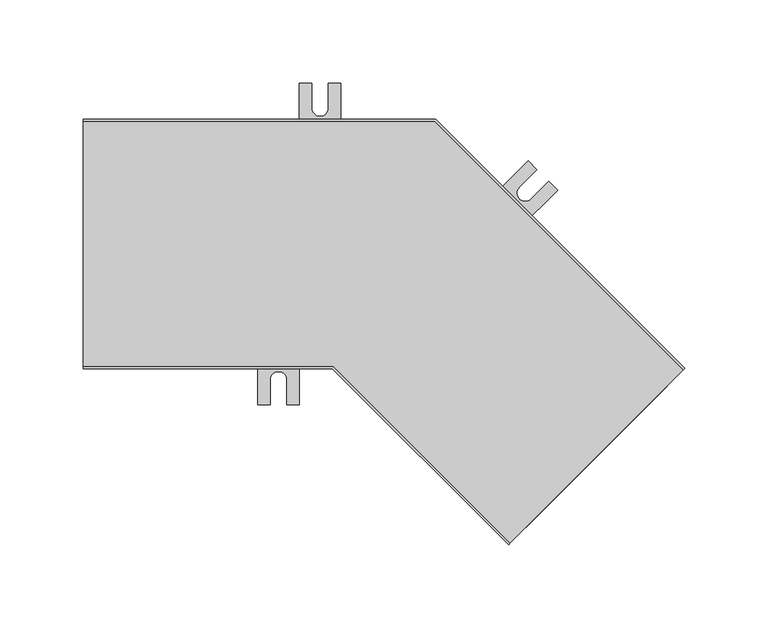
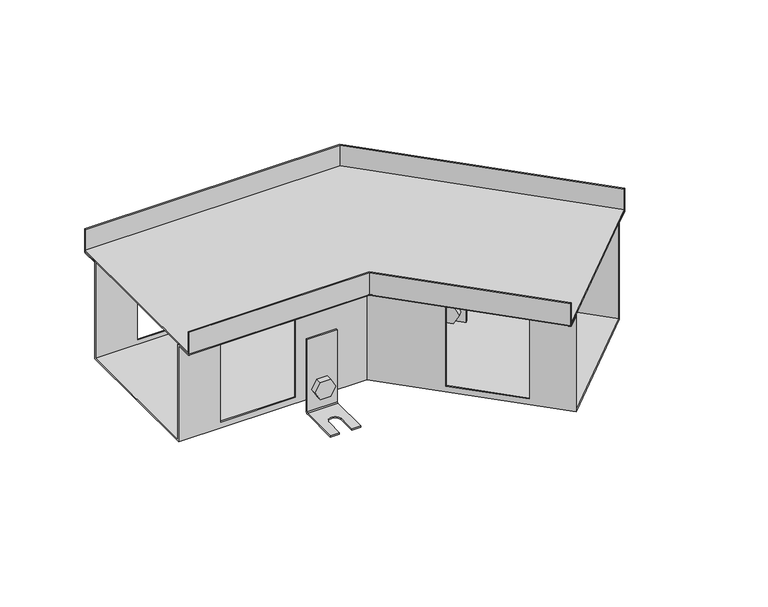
"""IFC4 building model written with IfcOpenShell, lengths in millimetres: proxy geometry, TECHNO_Угловой элемент_KVU : 150_105_135°."""

from ifc_helpers import new_model, si_unit, point, frame, frame_2d, origin, place, context, project, spatial, polyline, circle_curve, ellipse_curve, trimmed, segment, composite_curve, outline, extrude, source, transform, mapped, element, save
from ifc_brep_helpers import plane_surface, cylinder_surface, revolved_surface, advanced_brep


def mechanical_equipment_c4d98315(model_context):
    return source(origin(), model_context, "Body", "SolidModel", [
        extrude(outline(composite_curve([segment(trimmed(circle_curve(frame_2d((0.0, -7.5000001)), 7.5), [point((0.0, -15.0))], [point((0.0, 0.0))], False, "CARTESIAN"), True, "CONTINUOUS"), segment(trimmed(circle_curve(frame_2d((0.0, -7.5000001)), 7.5), [point((0.0, 0.0))], [point((0.0, -15.0))], False, "CARTESIAN"), True, "CONTINUOUS")], self_intersect=False)), frame((250.4666089, -30.7831745, -95.5), z_axis=(0.7071067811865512, 0.7071067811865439, 0.0), x_axis=(0.0, 0.0, 1.0)), (0.0, 0.0, 1.0), 1.5),
        extrude(outline(polyline([(0.0, 0.0), (8.660254, 1e-07), (12.990381, -7.5), (8.660254, -15.0), (0.0, -15.0), (-4.3301271, -7.4999999), (0.0, 0.0)])), frame((234.584811, -23.810922, -95.5), z_axis=(0.7071067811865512, 0.7071067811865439, 0.0), x_axis=(0.3535533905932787, -0.3535533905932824, -0.8660254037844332)), (0.0, 0.0, 1.0), 5.1),
        advanced_brep(
        [(253.1536147, -35.1672365, -50.5), (253.1536147, -35.1672365, -113.5), (252.5879292, -35.7329219, -114.3), (229.2534055, -59.0674457, -114.3), (229.2534055, -59.0674457, -115.5), (252.5879292, -35.7329219, -115.5), (254.0021428, -34.3187084, -113.5), (254.0021428, -34.3187084, -50.5), (235.4759451, -17.489567, -50.5), (236.3244733, -16.6410388, -50.5), (236.3244733, -16.6410388, -113.5), (234.9102597, -18.0552524, -115.5), (211.5757359, -41.3897762, -115.5), (211.5757359, -41.3897762, -114.3), (234.9102597, -18.0552524, -114.3), (235.4759451, -17.489567, -113.5), (216.8790368, -46.693077, -114.3), (227.4856385, -36.0864753, -114.3), (234.5567063, -43.1575431, -114.3), (223.9501046, -53.7641449, -114.3), (223.9501046, -53.7641449, -115.5), (216.8790368, -46.693077, -115.5), (234.5567063, -43.1575431, -115.5), (227.4856385, -36.0864753, -115.5)],
        [
            (0, 1),
            (1, 2, circle_curve(frame((252.5879292, -35.7329219, -113.5), z_axis=(-0.7071067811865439, 0.7071067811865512, 0.0), x_axis=(-0.7071067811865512, -0.7071067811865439, 0.0)), 0.8)),
            (2, 3),
            (3, 4),
            (4, 5),
            (5, 6, circle_curve(frame((252.5879292, -35.7329219, -113.5), z_axis=(0.7071067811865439, -0.7071067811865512, 0.0), x_axis=(-0.7071067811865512, -0.7071067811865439, 0.0)), 2.0)),
            (6, 7),
            (7, 0),
            (8, 9),
            (9, 10),
            (10, 11, circle_curve(frame((234.9102597, -18.0552524, -113.5), z_axis=(-0.7071067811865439, 0.7071067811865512, 0.0), x_axis=(-0.7071067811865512, -0.7071067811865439, 0.0)), 2.0)),
            (11, 12),
            (12, 13),
            (13, 14),
            (14, 15, circle_curve(frame((234.9102597, -18.0552524, -113.5), z_axis=(0.7071067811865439, -0.7071067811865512, 0.0), x_axis=(-0.7071067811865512, -0.7071067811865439, 0.0)), 0.8)),
            (15, 8),
            (0, 8),
            (15, 1),
            (14, 2),
            (13, 16),
            (16, 17),
            (17, 18, circle_curve(frame((231.0211724, -39.6220092, -114.3), z_axis=(0.0, 0.0, -1.0), x_axis=(0.7071067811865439, -0.7071067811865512, 0.0)), 5.0)),
            (18, 19),
            (19, 3),
            (19, 20),
            (20, 4),
            (12, 21),
            (21, 16),
            (20, 22),
            (22, 23, circle_curve(frame((231.0211724, -39.6220092, -115.5), z_axis=(0.0, 0.0, 1.0), x_axis=(0.7071067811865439, -0.7071067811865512, 0.0)), 5.0)),
            (23, 21),
            (11, 5),
            (10, 6),
            (9, 7),
            (23, 17),
            (18, 22),
        ],
        [
            plane_surface(frame((253.1536147, -35.1672365, -50.5), z_axis=(0.7071067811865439, -0.7071067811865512, 0.0), x_axis=(0.0, 0.0, -1.0))),
            plane_surface(frame((235.4759451, -17.489567, -50.5), z_axis=(-0.7071067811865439, 0.7071067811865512, 0.0), x_axis=(0.0, 0.0, 1.0))),
            plane_surface(frame((253.1536147, -35.1672365, -50.5), z_axis=(-0.7071067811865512, -0.7071067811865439, 0.0), x_axis=(-0.7071067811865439, 0.7071067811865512, 0.0))),
            revolved_surface(polyline([(234.34457427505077, -18.620937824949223, -113.5), (252.02224382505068, -36.29860737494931, -113.5)]), (234.9102597, -18.0552524, -113.5), (-0.7071067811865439, 0.7071067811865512, 0.0)),
            plane_surface(frame((252.5879292, -35.7329219, -114.3), z_axis=(0.0, 0.0, 1.0), x_axis=(-0.7071067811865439, 0.7071067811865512, 0.0))),
            plane_surface(frame((229.2534055, -59.0674457, -114.3), z_axis=(-0.7071067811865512, -0.7071067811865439, 0.0), x_axis=(-0.7071067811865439, 0.7071067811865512, 0.0))),
            plane_surface(frame((229.2534055, -59.0674457, -115.5), z_axis=(0.0, 0.0, -1.0), x_axis=(-0.7071067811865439, 0.7071067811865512, 0.0))),
            cylinder_surface(frame((234.9102597, -18.0552524, -113.5), z_axis=(0.7071067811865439, -0.7071067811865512, 0.0), x_axis=(-0.7071067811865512, -0.7071067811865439, 0.0)), 2.0),
            plane_surface(frame((254.0021428, -34.3187084, -113.5), z_axis=(0.7071067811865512, 0.7071067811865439, 0.0), x_axis=(-0.7071067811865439, 0.7071067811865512, 0.0))),
            plane_surface(frame((254.0021428, -34.3187084, -50.5), z_axis=(0.0, 0.0, 1.0), x_axis=(-0.7071067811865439, 0.7071067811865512, 0.0))),
            plane_surface(frame((227.4856385, -36.0864753, -114.3), z_axis=(0.7071067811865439, -0.7071067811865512, 0.0), x_axis=(0.0, 0.0, -1.0))),
            plane_surface(frame((223.9501046, -53.7641449, -114.3), z_axis=(-0.707106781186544, 0.7071067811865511, 0.0), x_axis=(0.0, 0.0, -1.0))),
            revolved_surface(polyline([(234.55670630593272, -43.15754310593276, -114.3), (234.55670630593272, -43.15754310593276, -115.5)]), (231.0211724, -39.6220092, -115.5), (0.0, 0.0, 1.0)),
        ],
        [
            (0, [[1, 2, 3, 4, 5, 6, 7, 8]]),
            (1, [[9, 10, 11, 12, 13, 14, 15, 16]]),
            (2, [[-1, 17, -16, 18]]),
            (3, [[-2, -18, -15, 19]]),
            (4, [[-3, -19, -14, 20, 21, 22, 23, 24]]),
            (5, [[-4, -24, 25, 26]]),
            (5, [[-13, 27, 28, -20]]),
            (6, [[-5, -26, 29, 30, 31, -27, -12, 32]]),
            (7, [[-6, -32, -11, 33]]),
            (8, [[-7, -33, -10, 34]]),
            (9, [[-8, -34, -9, -17]]),
            (10, [[35, -21, -28, -31]]),
            (11, [[36, -29, -25, -23]]),
            (12, [[-35, -30, -36, -22]]),
        ],
    ),
        extrude(outline(composite_curve([segment(trimmed(circle_curve(frame_2d((0.0, -7.5)), 7.5), [point((0.0, -15.0))], [point((0.0, 0.0))], False, "CARTESIAN"), True, "CONTINUOUS"), segment(trimmed(circle_curve(frame_2d((0.0, -7.5)), 7.5), [point((0.0, 0.0))], [point((0.0, -15.0))], False, "CARTESIAN"), True, "CONTINUOUS")], self_intersect=False)), frame((245.3754401, 20.6941992, -95.5), z_axis=(0.7071067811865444, 0.7071067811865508, 0.0), x_axis=(0.0, 0.0, -1.0)), (0.0, 0.0, 1.0), 1.5),
        extrude(outline(polyline([(0.0, 0.0), (4.330127, -7.5), (0.0, -15.0), (-8.660254, -15.0), (-12.990381, -7.5), (-8.6602541, 0.0), (0.0, 0.0)])), frame((258.7116536, 11.1763623, -95.5), z_axis=(0.7071067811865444, 0.7071067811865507, 0.0), x_axis=(0.35355339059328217, -0.35355339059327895, 0.8660254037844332)), (0.0, 0.0, 1.0), 5.1),
        advanced_brep(
        [(243.7490945, 26.1389214, -50.5), (243.7490945, 26.1389214, -113.5), (244.3147799, 26.7046068, -114.3), (267.6493037, 50.0391306, -114.3), (267.6493037, 50.0391306, -115.5), (244.3147799, 26.7046068, -115.5), (242.9005663, 25.2903933, -113.5), (242.9005663, 25.2903933, -50.5), (261.426764, 8.4612519, -50.5), (260.5782359, 7.6127238, -50.5), (260.5782359, 7.6127238, -113.5), (261.9924494, 9.0269373, -115.5), (285.3269732, 32.3614611, -115.5), (285.3269732, 32.3614611, -114.3), (261.9924494, 9.0269373, -114.3), (261.426764, 8.4612519, -113.5), (280.0236724, 37.664762, -114.3), (269.4170706, 27.0581602, -114.3), (262.3460028, 34.129228, -114.3), (272.9526045, 44.7358298, -114.3), (272.9526045, 44.7358298, -115.5), (280.0236724, 37.664762, -115.5), (262.3460028, 34.129228, -115.5), (269.4170706, 27.0581602, -115.5)],
        [
            (0, 1),
            (1, 2, circle_curve(frame((244.3147799, 26.7046068, -113.5), z_axis=(0.7071067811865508, -0.7071067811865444, 0.0), x_axis=(0.7071067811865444, 0.7071067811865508, 0.0)), 0.8)),
            (2, 3),
            (3, 4),
            (4, 5),
            (5, 6, circle_curve(frame((244.3147799, 26.7046068, -113.5), z_axis=(-0.7071067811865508, 0.7071067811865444, 0.0), x_axis=(0.7071067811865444, 0.7071067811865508, 0.0)), 2.0)),
            (6, 7),
            (7, 0),
            (8, 9),
            (9, 10),
            (10, 11, circle_curve(frame((261.9924494, 9.0269373, -113.5), z_axis=(0.7071067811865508, -0.7071067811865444, 0.0), x_axis=(0.7071067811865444, 0.7071067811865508, 0.0)), 2.0)),
            (11, 12),
            (12, 13),
            (13, 14),
            (14, 15, circle_curve(frame((261.9924494, 9.0269373, -113.5), z_axis=(-0.7071067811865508, 0.7071067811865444, 0.0), x_axis=(0.7071067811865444, 0.7071067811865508, 0.0)), 0.8)),
            (15, 8),
            (0, 8),
            (15, 1),
            (14, 2),
            (13, 16),
            (16, 17),
            (17, 18, circle_curve(frame((265.8815367, 30.5936941, -114.3), z_axis=(0.0, 0.0, -1.0), x_axis=(-0.7071067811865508, 0.7071067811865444, 0.0)), 5.0)),
            (18, 19),
            (19, 3),
            (19, 20),
            (20, 4),
            (12, 21),
            (21, 16),
            (20, 22),
            (22, 23, circle_curve(frame((265.8815367, 30.5936941, -115.5), z_axis=(0.0, 0.0, 1.0), x_axis=(-0.7071067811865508, 0.7071067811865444, 0.0)), 5.0)),
            (23, 21),
            (11, 5),
            (10, 6),
            (9, 7),
            (23, 17),
            (18, 22),
        ],
        [
            plane_surface(frame((243.7490945, 26.1389214, -50.5), z_axis=(-0.7071067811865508, 0.7071067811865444, 0.0), x_axis=(0.0, 0.0, -1.0))),
            plane_surface(frame((261.426764, 8.4612519, -50.5), z_axis=(0.7071067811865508, -0.7071067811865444, 0.0), x_axis=(0.0, 0.0, 1.0))),
            plane_surface(frame((243.7490945, 26.1389214, -50.5), z_axis=(0.7071067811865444, 0.7071067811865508, 0.0), x_axis=(0.7071067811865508, -0.7071067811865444, 0.0))),
            revolved_surface(polyline([(262.5581348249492, 9.59262272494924, -113.5), (244.8804653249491, 27.270292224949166, -113.5)]), (261.9924494, 9.0269373, -113.5), (0.7071067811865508, -0.7071067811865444, 0.0)),
            plane_surface(frame((244.3147799, 26.7046068, -114.3), z_axis=(0.0, 0.0, 1.0000000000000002), x_axis=(0.7071067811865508, -0.7071067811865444, 0.0))),
            plane_surface(frame((267.6493037, 50.0391306, -114.3), z_axis=(0.7071067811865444, 0.7071067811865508, 0.0), x_axis=(0.7071067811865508, -0.7071067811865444, 0.0))),
            plane_surface(frame((267.6493037, 50.0391306, -115.5), z_axis=(0.0, 0.0, -1.0000000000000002), x_axis=(0.7071067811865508, -0.7071067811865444, 0.0))),
            cylinder_surface(frame((261.9924494, 9.0269373, -113.5), z_axis=(-0.7071067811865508, 0.7071067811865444, 0.0), x_axis=(0.7071067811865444, 0.7071067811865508, 0.0)), 2.0),
            plane_surface(frame((242.9005663, 25.2903933, -113.5), z_axis=(-0.7071067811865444, -0.7071067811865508, 0.0), x_axis=(0.7071067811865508, -0.7071067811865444, 0.0))),
            plane_surface(frame((242.9005663, 25.2903933, -50.5), z_axis=(0.0, 0.0, 1.0000000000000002), x_axis=(0.7071067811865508, -0.7071067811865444, 0.0))),
            plane_surface(frame((269.4170706, 27.0581602, -114.3), z_axis=(-0.7071067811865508, 0.7071067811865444, 0.0), x_axis=(0.0, 0.0, -1.0))),
            plane_surface(frame((272.9526045, 44.7358298, -114.3), z_axis=(0.7071067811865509, -0.7071067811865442, 0.0), x_axis=(0.0, 0.0, -1.0))),
            revolved_surface(polyline([(262.34600279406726, 34.129228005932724, -114.3), (262.34600279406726, 34.129228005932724, -115.5)]), (265.8815367, 30.5936941, -115.5), (0.0, 0.0, 1.0)),
        ],
        [
            (0, [[1, 2, 3, 4, 5, 6, 7, 8]]),
            (1, [[9, 10, 11, 12, 13, 14, 15, 16]]),
            (2, [[-1, 17, -16, 18]]),
            (3, [[-2, -18, -15, 19]]),
            (4, [[-3, -19, -14, 20, 21, 22, 23, 24]]),
            (5, [[-4, -24, 25, 26]]),
            (5, [[-13, 27, 28, -20]]),
            (6, [[-5, -26, 29, 30, 31, -27, -12, 32]]),
            (7, [[-6, -32, -11, 33]]),
            (8, [[-7, -33, -10, 34]]),
            (9, [[-8, -34, -9, -17]]),
            (10, [[35, -21, -28, -31]]),
            (11, [[36, -29, -25, -23]]),
            (12, [[-35, -30, -36, -22]]),
        ],
    ),
        extrude(outline(composite_curve([segment(trimmed(circle_curve(frame_2d((-95.5, 142.5)), 7.5), [point((-95.5, 135.0))], [point((-95.5, 150.0))], False, "CARTESIAN"), True, "CONTINUOUS"), segment(trimmed(circle_curve(frame_2d((-95.5, 142.5)), 7.5), [point((-95.5, 150.0))], [point((-95.5, 135.0))], False, "CARTESIAN"), True, "CONTINUOUS")], self_intersect=False)), frame((0.0, 60.2, 0.0), z_axis=(0.0, 1.0, 0.0), x_axis=(0.0, 0.0, 1.0)), (0.0, 0.0, 1.0), 1.5),
        extrude(outline(polyline([(-95.5, 133.839746), (-103.0, 138.169873), (-103.0, 146.830127), (-95.5, 151.160254), (-88.0, 146.830127), (-88.0, 138.169873), (-95.5, 133.839746)])), frame((0.0, 62.9, 0.0), z_axis=(0.0, 1.0, 0.0), x_axis=(0.0, 0.0, 1.0)), (0.0, 0.0, 1.0), 5.1),
        advanced_brep(
        [(155.0, 62.9, -50.5), (155.0, 61.7, -50.5), (155.0, 61.7, -113.5), (155.0, 63.7, -115.5), (155.0, 96.7, -115.5), (155.0, 96.7, -114.3), (155.0, 63.7, -114.3), (155.0, 62.9, -113.5), (130.0, 62.9, -50.5), (130.0, 62.9, -113.5), (130.0, 63.7, -114.3), (130.0, 96.7, -114.3), (130.0, 96.7, -115.5), (130.0, 63.7, -115.5), (130.0, 61.7, -113.5), (130.0, 61.7, -50.5), (147.5, 96.7, -114.3), (147.5, 81.7, -114.3), (137.5, 81.7, -114.3), (137.5, 96.7, -114.3), (137.5, 96.7, -115.5), (147.5, 96.7, -115.5), (137.5, 81.7, -115.5), (147.5, 81.7, -115.5)],
        [
            (0, 1),
            (1, 2),
            (2, 3, circle_curve(frame((155.0, 63.7, -113.5), z_axis=(1.0, 0.0, 0.0), x_axis=(0.0, 1.0, 0.0)), 2.0)),
            (3, 4),
            (4, 5),
            (5, 6),
            (6, 7, circle_curve(frame((155.0, 63.7, -113.5), z_axis=(-1.0, 0.0, 0.0), x_axis=(0.0, 1.0, 0.0)), 0.8)),
            (7, 0),
            (8, 9),
            (9, 10, circle_curve(frame((130.0, 63.7, -113.5), z_axis=(1.0, 0.0, 0.0), x_axis=(0.0, 1.0, 0.0)), 0.8)),
            (10, 11),
            (11, 12),
            (12, 13),
            (13, 14, circle_curve(frame((130.0, 63.7, -113.5), z_axis=(-1.0, 0.0, 0.0), x_axis=(0.0, 1.0, 0.0)), 2.0)),
            (14, 15),
            (15, 8),
            (7, 9),
            (8, 0),
            (6, 10),
            (5, 16),
            (16, 17),
            (17, 18, circle_curve(frame((142.5, 81.7, -114.3), z_axis=(0.0, 0.0, -1.0), x_axis=(1.0, 0.0, 0.0)), 5.0)),
            (18, 19),
            (19, 11),
            (19, 20),
            (20, 12),
            (4, 21),
            (21, 16),
            (3, 13),
            (20, 22),
            (22, 23, circle_curve(frame((142.5, 81.7, -115.5), z_axis=(0.0, 0.0, 1.0), x_axis=(1.0, 0.0, 0.0)), 5.0)),
            (23, 21),
            (2, 14),
            (1, 15),
            (18, 22),
            (23, 17),
        ],
        [
            plane_surface(frame((155.0, 62.9, -50.5), z_axis=(1.0, 0.0, 0.0), x_axis=(0.0, 0.0, -1.0))),
            plane_surface(frame((130.0, 62.9, -50.5), z_axis=(-1.0, 0.0, 0.0), x_axis=(0.0, 0.0, 1.0))),
            plane_surface(frame((155.0, 62.9, -50.5), z_axis=(0.0, 1.0, 0.0), x_axis=(-1.0, 0.0, 0.0))),
            revolved_surface(polyline([(130.0, 64.5, -113.5), (155.0, 64.5, -113.5)]), (130.0, 63.7, -113.5), (-1.0, 0.0, 0.0)),
            plane_surface(frame((155.0, 63.7, -114.3), z_axis=(0.0, 0.0, 1.0), x_axis=(-1.0, 0.0, 0.0))),
            plane_surface(frame((155.0, 96.7, -114.3), z_axis=(0.0, 1.0, 0.0), x_axis=(-1.0, 0.0, 0.0))),
            plane_surface(frame((155.0, 96.7, -115.5), z_axis=(0.0, 0.0, -1.0), x_axis=(-1.0, 0.0, 0.0))),
            cylinder_surface(frame((130.0, 63.7, -113.5), z_axis=(1.0, 0.0, 0.0), x_axis=(0.0, 1.0, 0.0)), 2.0),
            plane_surface(frame((155.0, 61.7, -113.5), z_axis=(0.0, -1.0, 0.0), x_axis=(-1.0, 0.0, 0.0))),
            plane_surface(frame((155.0, 61.7, -50.5), z_axis=(0.0, 0.0, 1.0), x_axis=(-1.0, 0.0, 0.0))),
            plane_surface(frame((137.5, 81.7, -114.3), z_axis=(1.0, 0.0, 0.0), x_axis=(0.0, 0.0, -1.0))),
            plane_surface(frame((147.5, 96.7, -114.3), z_axis=(-1.0, 0.0, 0.0), x_axis=(0.0, 0.0, -1.0))),
            revolved_surface(polyline([(147.5, 81.7, -114.3), (147.5, 81.7, -115.5)]), (142.5, 81.7, -115.5), (0.0, 0.0, 1.0)),
        ],
        [
            (0, [[1, 2, 3, 4, 5, 6, 7, 8]]),
            (1, [[9, 10, 11, 12, 13, 14, 15, 16]]),
            (2, [[17, -9, 18, -8]]),
            (3, [[19, -10, -17, -7]]),
            (4, [[20, 21, 22, 23, 24, -11, -19, -6]]),
            (5, [[-24, 25, 26, -12]]),
            (5, [[27, 28, -20, -5]]),
            (6, [[29, -13, -26, 30, 31, 32, -27, -4]]),
            (7, [[33, -14, -29, -3]]),
            (8, [[34, -15, -33, -2]]),
            (9, [[-18, -16, -34, -1]]),
            (10, [[-30, -25, -23, 35]]),
            (11, [[-21, -28, -32, 36]]),
            (12, [[-22, -36, -31, -35]]),
        ],
    ),
        extrude(outline(composite_curve([segment(trimmed(circle_curve(frame_2d((-95.5, 117.5)), 7.5), [point((-95.5, 110.0))], [point((-95.5, 125.0))], False, "CARTESIAN"), True, "CONTINUOUS"), segment(trimmed(circle_curve(frame_2d((-95.5, 117.5)), 7.5), [point((-95.5, 125.0))], [point((-95.5, 110.0))], False, "CARTESIAN"), True, "CONTINUOUS")], self_intersect=False)), frame((0.0, -61.7, 0.0), z_axis=(0.0, 1.0, 0.0), x_axis=(0.0, 0.0, 1.0)), (0.0, 0.0, 1.0), 1.5),
        extrude(outline(polyline([(-95.5, 108.839746), (-103.0, 113.169873), (-103.0, 121.830127), (-95.5, 126.160254), (-88.0, 121.830127), (-88.0, 113.169873), (-95.5, 108.839746)])), frame((0.0, -68.0, 0.0), z_axis=(0.0, 1.0, 0.0), x_axis=(0.0, 0.0, 1.0)), (0.0, 0.0, 1.0), 5.1),
        advanced_brep(
        [(130.0, -62.9, -50.5), (130.0, -62.9, -113.5), (130.0, -63.7, -114.3), (130.0, -96.7, -114.3), (130.0, -96.7, -115.5), (130.0, -63.7, -115.5), (130.0, -61.7, -113.5), (130.0, -61.7, -50.5), (105.0, -62.9, -50.5), (105.0, -61.7, -50.5), (105.0, -61.7, -113.5), (105.0, -63.7, -115.5), (105.0, -96.7, -115.5), (105.0, -96.7, -114.3), (105.0, -63.7, -114.3), (105.0, -62.9, -113.5), (112.5, -96.7, -114.3), (112.5, -81.7, -114.3), (122.5, -81.7, -114.3), (122.5, -96.7, -114.3), (122.5, -96.7, -115.5), (112.5, -96.7, -115.5), (122.5, -81.7, -115.5), (112.5, -81.7, -115.5)],
        [
            (0, 1),
            (1, 2, circle_curve(frame((130.0, -63.7, -113.5), z_axis=(-1.0, 0.0, 0.0), x_axis=(0.0, -1.0, 0.0)), 0.8)),
            (2, 3),
            (3, 4),
            (4, 5),
            (5, 6, circle_curve(frame((130.0, -63.7, -113.5), z_axis=(1.0, 0.0, 0.0), x_axis=(0.0, -1.0, 0.0)), 2.0)),
            (6, 7),
            (7, 0),
            (8, 9),
            (9, 10),
            (10, 11, circle_curve(frame((105.0, -63.7, -113.5), z_axis=(-1.0, 0.0, 0.0), x_axis=(0.0, -1.0, 0.0)), 2.0)),
            (11, 12),
            (12, 13),
            (13, 14),
            (14, 15, circle_curve(frame((105.0, -63.7, -113.5), z_axis=(1.0, 0.0, 0.0), x_axis=(0.0, -1.0, 0.0)), 0.8)),
            (15, 8),
            (0, 8),
            (15, 1),
            (14, 2),
            (13, 16),
            (16, 17),
            (17, 18, circle_curve(frame((117.5, -81.7, -114.3), z_axis=(0.0, 0.0, -1.0), x_axis=(1.0, 0.0, 0.0)), 5.0)),
            (18, 19),
            (19, 3),
            (19, 20),
            (20, 4),
            (12, 21),
            (21, 16),
            (20, 22),
            (22, 23, circle_curve(frame((117.5, -81.7, -115.5), z_axis=(0.0, 0.0, 1.0), x_axis=(1.0, 0.0, 0.0)), 5.0)),
            (23, 21),
            (11, 5),
            (10, 6),
            (9, 7),
            (23, 17),
            (18, 22),
        ],
        [
            plane_surface(frame((130.0, -62.9, -50.5), z_axis=(1.0, 0.0, 0.0), x_axis=(0.0, 0.0, -1.0))),
            plane_surface(frame((105.0, -62.9, -50.5), z_axis=(-1.0, 0.0, 0.0), x_axis=(0.0, 0.0, 1.0))),
            plane_surface(frame((130.0, -62.9, -50.5), z_axis=(0.0, -1.0, 0.0), x_axis=(-1.0, 0.0, 0.0))),
            revolved_surface(polyline([(105.0, -64.5, -113.5), (130.0, -64.5, -113.5)]), (105.0, -63.7, -113.5), (-1.0, 0.0, 0.0)),
            plane_surface(frame((130.0, -63.7, -114.3), z_axis=(0.0, 0.0, 1.0), x_axis=(-1.0, 0.0, 0.0))),
            plane_surface(frame((130.0, -96.7, -114.3), z_axis=(0.0, -1.0, 0.0), x_axis=(-1.0, 0.0, 0.0))),
            plane_surface(frame((130.0, -96.7, -115.5), z_axis=(0.0, 0.0, -1.0), x_axis=(-1.0, 0.0, 0.0))),
            cylinder_surface(frame((105.0, -63.7, -113.5), z_axis=(1.0, 0.0, 0.0), x_axis=(0.0, -1.0, 0.0)), 2.0),
            plane_surface(frame((130.0, -61.7, -113.5), z_axis=(0.0, 1.0, 0.0), x_axis=(-1.0, 0.0, 0.0))),
            plane_surface(frame((130.0, -61.7, -50.5), z_axis=(0.0, 0.0, 1.0), x_axis=(-1.0, 0.0, 0.0))),
            plane_surface(frame((112.5, -81.7, -114.3), z_axis=(1.0, 0.0, 0.0), x_axis=(0.0, 0.0, -1.0))),
            plane_surface(frame((122.5, -96.7, -114.3), z_axis=(-1.0, 0.0, 0.0), x_axis=(0.0, 0.0, -1.0))),
            revolved_surface(polyline([(122.5, -81.7, -114.3), (122.5, -81.7, -115.5)]), (117.5, -81.7, -115.5), (0.0, 0.0, 1.0)),
        ],
        [
            (0, [[1, 2, 3, 4, 5, 6, 7, 8]]),
            (1, [[9, 10, 11, 12, 13, 14, 15, 16]]),
            (2, [[-1, 17, -16, 18]]),
            (3, [[-2, -18, -15, 19]]),
            (4, [[-3, -19, -14, 20, 21, 22, 23, 24]]),
            (5, [[-4, -24, 25, 26]]),
            (5, [[-13, 27, 28, -20]]),
            (6, [[-5, -26, 29, 30, 31, -27, -12, 32]]),
            (7, [[-6, -32, -11, 33]]),
            (8, [[-7, -33, -10, 34]]),
            (9, [[-8, -34, -9, -17]]),
            (10, [[35, -21, -28, -31]]),
            (11, [[36, -29, -25, -23]]),
            (12, [[-35, -30, -36, -22]]),
        ],
    ),
        extrude(outline(polyline([(361.0581095, -75.7551657), (256.6891486, -180.1241267), (150.3650219, -73.8), (0.0, -73.8), (0.0, 73.8), (211.5029437, 73.8), (361.0581095, -75.7551657)])), frame((0.0, 0.0, -19.3), z_axis=(0.0, 0.0, 1.0), x_axis=(1.0, 0.0, 0.0)), (0.0, 0.0, 1.0), 1.2),
        advanced_brep(
        [(255.8406204, -180.9726548, -19.3), (256.6891486, -180.1241267, -20.5), (266.3058008, -170.5074744, -20.5), (266.3058008, -170.5074744, -105.0), (351.4414572, -85.371818, -105.0), (351.4414572, -85.371818, -20.5), (361.0581095, -75.7551657, -20.5), (361.9066376, -74.9066376, -19.3), (361.9066376, -74.9066376, 0.0), (361.0581095, -75.7551657, 0.0), (361.0581095, -75.7551657, -19.3), (351.4414572, -85.371818, -19.3), (350.5929291, -86.2203461, -20.5), (350.5929291, -86.2203461, -103.8), (267.1543289, -169.6589463, -103.8), (267.1543289, -169.6589463, -20.5), (266.3058008, -170.5074744, -19.3), (256.6891486, -180.1241267, -19.3), (256.6891486, -180.1241267, 0.0), (255.8406204, -180.9726548, 0.0), (0.0, -75.0, -19.3), (0.0, -75.0, 0.0), (0.0, -73.8, 0.0), (0.0, -73.8, -19.3), (0.0, -60.2, -19.3), (0.0, -59.0, -20.5), (0.0, -59.0, -103.8), (0.0, 59.0, -103.8), (0.0, 59.0, -20.5), (0.0, 60.2, -19.3), (0.0, 73.8, -19.3), (0.0, 73.8, 0.0), (0.0, 75.0, 0.0), (0.0, 75.0, -19.3), (0.0, 73.8, -20.5), (0.0, 60.2, -20.5), (0.0, 60.2, -105.0), (0.0, -60.2, -105.0), (0.0, -60.2, -20.5), (0.0, -73.8, -20.5), (150.3650219, -73.8, -20.5), (149.8679656, -75.0, -19.3), (150.3650219, -73.8, 0.0), (150.3650219, -73.8, -19.3), (155.9983264, -60.2, -105.0), (155.9983264, -60.2, -20.5), (35.0, -60.2, -28.0), (97.0, -60.2, -28.0), (97.0, -60.2, -100.0), (35.0, -60.2, -100.0), (156.4953826, -59.0, -20.5), (156.4953826, -59.0, -103.8), (97.0, -59.0, -28.0), (35.0, -59.0, -28.0), (35.0, -59.0, -100.0), (97.0, -59.0, -100.0), (155.9983264, -60.2, -19.3), (197.716443, -101.9181167, -28.0), (241.5570635, -145.7587371, -28.0), (241.5570635, -145.7587371, -100.0), (197.716443, -101.9181167, -100.0), (205.8696393, 60.2, -105.0), (205.372583, 59.0, -103.8), (242.4055916, -144.9102089, -28.0), (198.5649712, -101.0695885, -28.0), (198.5649712, -101.0695885, -100.0), (242.4055916, -144.9102089, -100.0), (149.8679656, -75.0, 0.0), (205.8696393, 60.2, -20.5), (326.6927199, -60.6230806, -28.0), (282.8520995, -16.7824602, -28.0), (282.8520995, -16.7824602, -100.0), (326.6927199, -60.6230806, -100.0), (211.5029437, 73.8, -20.5), (212.0, 75.0, -19.3), (212.0, 75.0, 0.0), (211.5029437, 73.8, 0.0), (211.5029437, 73.8, -19.3), (205.8696393, 60.2, -19.3), (205.372583, 59.0, -20.5), (282.0035713, -17.6309883, -28.0), (325.8441918, -61.4716088, -28.0), (325.8441918, -61.4716088, -100.0), (282.0035713, -17.6309883, -100.0), (97.0, 60.2, -28.0), (35.0, 60.2, -28.0), (35.0, 60.2, -100.0), (97.0, 60.2, -100.0), (35.0, 59.0, -28.0), (97.0, 59.0, -28.0), (97.0, 59.0, -100.0), (35.0, 59.0, -100.0)],
        [
            (0, 1, circle_curve(frame((256.6891486, -180.1241267, -19.3), z_axis=(0.707106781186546, -0.707106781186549, 0.0), x_axis=(-0.707106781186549, -0.707106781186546, 0.0)), 1.2)),
            (1, 2),
            (2, 3),
            (3, 4),
            (4, 5),
            (5, 6),
            (6, 7, circle_curve(frame((361.0581095, -75.7551657, -19.3), z_axis=(0.707106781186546, -0.707106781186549, 0.0), x_axis=(-0.707106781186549, -0.707106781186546, 0.0)), 1.2)),
            (7, 8),
            (8, 9),
            (9, 10),
            (10, 11),
            (11, 12, circle_curve(frame((351.4414572, -85.371818, -20.5), z_axis=(0.707106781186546, -0.707106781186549, 0.0), x_axis=(-0.707106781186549, -0.707106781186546, 0.0)), 1.2)),
            (12, 13),
            (13, 14),
            (14, 15),
            (15, 16, circle_curve(frame((266.3058008, -170.5074744, -20.5), z_axis=(0.707106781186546, -0.707106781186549, 0.0), x_axis=(-0.707106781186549, -0.707106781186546, 0.0)), 1.2)),
            (16, 17),
            (17, 18),
            (18, 19),
            (19, 0),
            (20, 21),
            (21, 22),
            (22, 23),
            (23, 24),
            (24, 25, circle_curve(frame((0.0, -60.2, -20.5), z_axis=(-1.0, 0.0, 0.0), x_axis=(0.0, -1.0, 0.0)), 1.2)),
            (25, 26),
            (26, 27),
            (27, 28),
            (28, 29, circle_curve(frame((0.0, 60.2, -20.5), z_axis=(-1.0, 0.0, 0.0), x_axis=(0.0, -1.0, 0.0)), 1.2)),
            (29, 30),
            (30, 31),
            (31, 32),
            (32, 33),
            (33, 34, circle_curve(frame((0.0, 73.8, -19.3), z_axis=(-1.0, 0.0, 0.0), x_axis=(0.0, -1.0, 0.0)), 1.2)),
            (34, 35),
            (35, 36),
            (36, 37),
            (37, 38),
            (38, 39),
            (39, 20, circle_curve(frame((0.0, -73.8, -19.3), z_axis=(-1.0, 0.0, 0.0), x_axis=(0.0, -1.0, 0.0)), 1.2)),
            (39, 40),
            (40, 41, ellipse_curve(frame((150.3650219, -73.8, -19.3), z_axis=(-0.9238795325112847, 0.3826834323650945, 0.0), x_axis=(0.38268343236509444, 0.9238795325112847, 0.0)), 1.2988706, 1.2)),
            (41, 20),
            (22, 42),
            (42, 43),
            (43, 23),
            (37, 44),
            (44, 45),
            (45, 38),
            (46, 47),
            (47, 48),
            (48, 49),
            (49, 46),
            (25, 50),
            (50, 51),
            (51, 26),
            (52, 53),
            (53, 54),
            (54, 55),
            (55, 52),
            (24, 56),
            (56, 50, ellipse_curve(frame((155.9983264, -60.2, -20.5), z_axis=(-0.9238795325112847, 0.3826834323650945, 0.0), x_axis=(0.38268343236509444, 0.9238795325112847, 0.0)), 1.2988706, 1.2)),
            (0, 41),
            (40, 1),
            (45, 2),
            (44, 3),
            (57, 58),
            (58, 59),
            (59, 60),
            (60, 57),
            (36, 61),
            (61, 4),
            (13, 62),
            (62, 27),
            (51, 14),
            (50, 15),
            (63, 64),
            (64, 65),
            (65, 66),
            (66, 63),
            (56, 16),
            (43, 17),
            (42, 18),
            (21, 67),
            (67, 19),
            (61, 68),
            (68, 5),
            (69, 70),
            (70, 71),
            (71, 72),
            (72, 69),
            (68, 35),
            (34, 73),
            (73, 6),
            (73, 74, ellipse_curve(frame((211.5029437, 73.8, -19.3), z_axis=(0.9238795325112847, -0.3826834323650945, 0.0), x_axis=(-0.38268343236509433, -0.9238795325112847, 0.0)), 1.2988706, 1.2)),
            (74, 7),
            (74, 75),
            (75, 8),
            (75, 32),
            (31, 76),
            (76, 9),
            (76, 77),
            (77, 10),
            (77, 30),
            (29, 78),
            (78, 11),
            (78, 79, ellipse_curve(frame((205.8696393, 60.2, -20.5), z_axis=(0.9238795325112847, -0.3826834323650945, 0.0), x_axis=(-0.38268343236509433, -0.9238795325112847, 0.0)), 1.2988706, 1.2)),
            (79, 12),
            (79, 62),
            (80, 81),
            (81, 82),
            (82, 83),
            (83, 80),
            (84, 85),
            (85, 86),
            (86, 87),
            (87, 84),
            (33, 74),
            (28, 79),
            (88, 89),
            (89, 90),
            (90, 91),
            (91, 88),
            (41, 67),
            (46, 53),
            (52, 47),
            (88, 85),
            (84, 89),
            (49, 54),
            (91, 86),
            (48, 55),
            (90, 87),
            (57, 64),
            (63, 58),
            (80, 70),
            (69, 81),
            (66, 59),
            (72, 82),
            (65, 60),
            (71, 83),
        ],
        [
            plane_surface(frame((308.873629, -127.9396462, 0.0), z_axis=(0.707106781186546, -0.707106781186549, 0.0), x_axis=(0.0, 0.0, 1.0))),
            plane_surface(frame((0.0, 0.0, 0.0), z_axis=(-1.0, 0.0, 0.0), x_axis=(0.0, 0.0, 1.0))),
            cylinder_surface(frame((180.9339828, -73.8, -19.3), z_axis=(1.0, 0.0, 0.0), x_axis=(0.0, -1.0, 0.0)), 1.2),
            plane_surface(frame((150.3650219, -73.8, -19.3), z_axis=(0.0, 1.0, 0.0), x_axis=(-1.0, 0.0, 0.0))),
            plane_surface(frame((155.9983264, -60.2, -20.5), z_axis=(0.0, -1.0, 0.0), x_axis=(-1.0, 0.0, 0.0))),
            plane_surface(frame((156.4953826, -59.0, -103.8), z_axis=(0.0, 1.0, 0.0), x_axis=(-1.0, 0.0, 0.0))),
            cylinder_surface(frame((180.9339828, -60.2, -20.5), z_axis=(1.0, 0.0, 0.0), x_axis=(0.0, -1.0, 0.0)), 1.2),
            cylinder_surface(frame((256.6891486, -180.1241267, -19.3), z_axis=(0.707106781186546, -0.707106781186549, 0.0), x_axis=(-0.707106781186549, -0.707106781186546, 0.0)), 1.2),
            plane_surface(frame((256.6891486, -180.1241267, -20.5), z_axis=(0.0, 0.0, -1.0), x_axis=(-0.7071067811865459, 0.7071067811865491, 0.0))),
            plane_surface(frame((266.3058008, -170.5074744, -20.5), z_axis=(-0.7071067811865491, -0.707106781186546, 0.0), x_axis=(-0.707106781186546, 0.7071067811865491, 0.0))),
            plane_surface(frame((266.3058008, -170.5074744, -105.0), z_axis=(0.0, 0.0, -1.0), x_axis=(-0.7071067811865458, 0.7071067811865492, 0.0))),
            plane_surface(frame((350.5929291, -86.2203461, -103.8), z_axis=(0.0, 0.0, 1.0), x_axis=(-0.7071067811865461, 0.707106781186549, 0.0))),
            plane_surface(frame((267.1543289, -169.6589463, -103.8), z_axis=(0.7071067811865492, 0.7071067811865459, 0.0), x_axis=(-0.7071067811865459, 0.7071067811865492, 0.0))),
            cylinder_surface(frame((266.3058008, -170.5074744, -20.5), z_axis=(0.707106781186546, -0.707106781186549, 0.0), x_axis=(-0.707106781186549, -0.707106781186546, 0.0)), 1.2),
            plane_surface(frame((266.3058008, -170.5074744, -19.3), z_axis=(0.0, 0.0, 1.0), x_axis=(-0.707106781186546, 0.7071067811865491, 0.0))),
            plane_surface(frame((256.6891486, -180.1241267, -19.3), z_axis=(0.7071067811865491, 0.7071067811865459, 0.0), x_axis=(-0.7071067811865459, 0.7071067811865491, 0.0))),
            plane_surface(frame((256.6891486, -180.1241267, 0.0), z_axis=(0.0, 0.0, 1.0), x_axis=(-0.7071067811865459, 0.7071067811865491, 0.0))),
            plane_surface(frame((351.4414572, -85.371818, -105.0), z_axis=(0.7071067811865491, 0.707106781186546, 0.0), x_axis=(-0.707106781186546, 0.7071067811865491, 0.0))),
            plane_surface(frame((351.4414572, -85.371818, -20.5), z_axis=(0.0, 0.0, -1.0000000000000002), x_axis=(-0.7071067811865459, 0.7071067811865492, 0.0))),
            cylinder_surface(frame((361.0581095, -75.7551657, -19.3), z_axis=(0.707106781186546, -0.707106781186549, 0.0), x_axis=(-0.707106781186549, -0.707106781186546, 0.0)), 1.2),
            plane_surface(frame((361.9066376, -74.9066376, -19.3), z_axis=(0.7071067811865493, 0.7071067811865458, 0.0), x_axis=(-0.7071067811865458, 0.7071067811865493, 0.0))),
            plane_surface(frame((361.9066376, -74.9066376, 0.0), z_axis=(0.0, 0.0, 1.0), x_axis=(-0.7071067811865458, 0.7071067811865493, 0.0))),
            plane_surface(frame((361.0581095, -75.7551657, 0.0), z_axis=(-0.7071067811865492, -0.7071067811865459, 0.0), x_axis=(-0.7071067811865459, 0.7071067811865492, 0.0))),
            plane_surface(frame((361.0581095, -75.7551657, -19.3), z_axis=(0.0, 0.0, 1.0), x_axis=(-0.7071067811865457, 0.7071067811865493, 0.0))),
            cylinder_surface(frame((351.4414572, -85.371818, -20.5), z_axis=(0.707106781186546, -0.707106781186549, 0.0), x_axis=(-0.707106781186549, -0.707106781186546, 0.0)), 1.2),
            plane_surface(frame((350.5929291, -86.2203461, -20.5), z_axis=(-0.707106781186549, -0.7071067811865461, 0.0), x_axis=(-0.7071067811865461, 0.707106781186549, 0.0))),
            plane_surface(frame((205.8696393, 60.2, -105.0), z_axis=(0.0, 1.0, 0.0), x_axis=(-1.0, 0.0, 0.0))),
            cylinder_surface(frame((180.9339828, 73.8, -19.3), z_axis=(1.0, 0.0, 0.0), x_axis=(0.0, -1.0, 0.0)), 1.2),
            plane_surface(frame((212.0, 75.0, -19.3), z_axis=(0.0, 1.0, 0.0), x_axis=(-1.0, 0.0, 0.0))),
            plane_surface(frame((211.5029437, 73.8, 0.0), z_axis=(0.0, -1.0, 0.0), x_axis=(-1.0, 0.0, 0.0))),
            cylinder_surface(frame((180.9339828, 60.2, -20.5), z_axis=(1.0, 0.0, 0.0), x_axis=(0.0, -1.0, 0.0)), 1.2),
            plane_surface(frame((205.372583, 59.0, -20.5), z_axis=(0.0, -1.0, 0.0), x_axis=(-1.0, 0.0, 0.0))),
            plane_surface(frame((149.8679656, -75.0, 0.0), z_axis=(0.0, -1.0, 0.0), x_axis=(-1.0, 0.0, 0.0))),
            plane_surface(frame((255.8406204, -180.9726548, 0.0), z_axis=(-0.7071067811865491, -0.7071067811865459, 0.0), x_axis=(-0.7071067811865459, 0.7071067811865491, 0.0))),
            plane_surface(frame((35.0, 75.0, -28.0), z_axis=(0.0, 0.0, -1.0), x_axis=(0.0, -1.0, 0.0))),
            plane_surface(frame((35.0, 75.0, -100.0), z_axis=(1.0, 0.0, 0.0), x_axis=(0.0, -1.0, 0.0))),
            plane_surface(frame((97.0, 75.0, -100.0), z_axis=(0.0, 0.0, 1.0), x_axis=(0.0, -1.0, 0.0))),
            plane_surface(frame((97.0, 75.0, -28.0), z_axis=(-1.0, 0.0, 0.0), x_axis=(0.0, -1.0, 0.0))),
            plane_surface(frame((293.3172798, -6.3172798, -28.0), z_axis=(0.0, 0.0, -1.0000000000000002), x_axis=(-0.7071067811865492, -0.7071067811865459, 0.0))),
            plane_surface(frame((337.1579003, -50.1579003, -28.0), z_axis=(-0.707106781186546, 0.7071067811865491, 0.0), x_axis=(-0.7071067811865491, -0.707106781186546, 0.0))),
            plane_surface(frame((337.1579003, -50.1579003, -100.0), z_axis=(0.0, 0.0, 1.0), x_axis=(-0.7071067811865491, -0.707106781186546, 0.0))),
            plane_surface(frame((293.3172798, -6.3172798, -100.0), z_axis=(0.7071067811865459, -0.7071067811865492, 0.0), x_axis=(-0.7071067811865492, -0.7071067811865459, 0.0))),
        ],
        [
            (0, [[1, 2, 3, 4, 5, 6, 7, 8, 9, 10, 11, 12, 13, 14, 15, 16, 17, 18, 19, 20]]),
            (1, [[21, 22, 23, 24, 25, 26, 27, 28, 29, 30, 31, 32, 33, 34, 35, 36, 37, 38, 39, 40]]),
            (2, [[-40, 41, 42, 43]]),
            (3, [[-23, 44, 45, 46]]),
            (4, [[-38, 47, 48, 49], [50, 51, 52, 53]]),
            (5, [[-26, 54, 55, 56], [57, 58, 59, 60]]),
            (6, [[-25, 61, 62, -54]]),
            (7, [[-1, 63, -42, 64]]),
            (8, [[-2, -64, -41, -39, -49, 65]]),
            (9, [[-3, -65, -48, 66], [67, 68, 69, 70]]),
            (10, [[-4, -66, -47, -37, 71, 72]]),
            (11, [[-14, 73, 74, -27, -56, 75]]),
            (12, [[-15, -75, -55, 76], [77, 78, 79, 80]]),
            (13, [[-16, -76, -62, 81]]),
            (14, [[-17, -81, -61, -24, -46, 82]]),
            (15, [[-18, -82, -45, 83]]),
            (16, [[-19, -83, -44, -22, 84, 85]]),
            (17, [[-5, -72, 86, 87], [88, 89, 90, 91]]),
            (18, [[-6, -87, 92, -35, 93, 94]]),
            (19, [[-7, -94, 95, 96]]),
            (20, [[-8, -96, 97, 98]]),
            (21, [[-9, -98, 99, -32, 100, 101]]),
            (22, [[-10, -101, 102, 103]]),
            (23, [[-11, -103, 104, -30, 105, 106]]),
            (24, [[-12, -106, 107, 108]]),
            (25, [[-13, -108, 109, -73], [110, 111, 112, 113]]),
            (26, [[-36, -92, -86, -71], [114, 115, 116, 117]]),
            (27, [[-34, 118, -95, -93]]),
            (28, [[-33, -99, -97, -118]]),
            (29, [[-31, -104, -102, -100]]),
            (30, [[-29, 119, -107, -105]]),
            (31, [[-28, -74, -109, -119], [120, 121, 122, 123]]),
            (32, [[-21, -43, 124, -84]]),
            (33, [[-20, -85, -124, -63]]),
            (34, [[125, -57, 126, -50]]),
            (34, [[127, -114, 128, -120]]),
            (35, [[-125, -53, 129, -58]]),
            (35, [[-127, -123, 130, -115]]),
            (36, [[-129, -52, 131, -59]]),
            (36, [[-130, -122, 132, -116]]),
            (37, [[-131, -51, -126, -60]]),
            (37, [[-132, -121, -128, -117]]),
            (38, [[133, -77, 134, -67]]),
            (38, [[135, -88, 136, -110]]),
            (39, [[-134, -80, 137, -68]]),
            (39, [[-136, -91, 138, -111]]),
            (40, [[-137, -79, 139, -69]]),
            (40, [[-138, -90, 140, -112]]),
            (41, [[-133, -70, -139, -78]]),
            (41, [[-135, -113, -140, -89]]),
        ],
    ),
    ])


if __name__ == "__main__":
    model = new_model("IFC4")
    model_context = context("Model", 3, world=origin())
    ifc_project = project(units=[si_unit("LENGTHUNIT", "METRE", prefix="MILLI")], contexts=[model_context])
    site = spatial("IfcSite", under=ifc_project)
    building = spatial("IfcBuilding", under=site)
    placement = place(None, origin())
    mechanical_equipment_shape = mechanical_equipment_c4d98315(model_context)
    element("IfcBuildingElementProxy", 1, Name="TECHNO_Угловой элемент_KVU : 150_105_135°", ObjectType="TECHNO_Угловой элемент_KVU : 150_105_135°", at=placement, inside=building, context=model_context, shape_type="MappedRepresentation", body=[
        mapped(mechanical_equipment_shape, transform((0.0, 0.0, 0.0), x_axis=(1.0, 0.0, 0.0), y_axis=(0.0, 1.0, 0.0), z_axis=(0.0, 0.0, 1.0))),
    ])
    save(model, "model.ifc")
